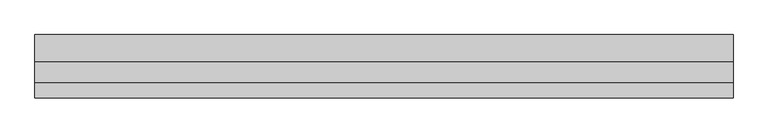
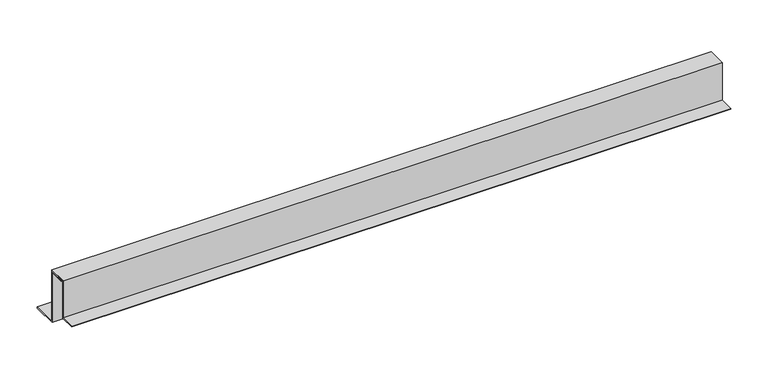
"""IFC4 building model written with IfcOpenShell, lengths in millimetres: proxy geometry, АК7_1 бок Обрамление оконного_дверного проема : АК7_1 бок Обрамление оконного_дверного проема."""

from ifc_helpers import new_model, si_unit, frame, origin, place, context, project, spatial, polyline, outline, extrude, source, transform, mapped, element, save


def generic_models_f476a873(model_context):
    return source(origin(), model_context, "Body", "SweptSolid", [
        extrude(outline(polyline([(12.5, 25.0), (42.5, 25.0), (42.5, 22.0), (27.5, 22.0), (27.5, 23.0), (41.5, 23.0), (41.5, 24.0), (13.5, 24.0), (13.5, -36.9999552), (-10.5, -36.9999552), (-10.5, -35.9999552), (12.5, -35.9999552), (12.5, 25.0)])), frame((0.0, 0.0, 0.0), z_axis=(1.0, 0.0, 0.0), x_axis=(0.0, 1.0, 0.0)), (0.0, 0.0, 1.0), 1024.9741576),
        extrude(outline(polyline([(42.5, -60.0), (82.5, -60.0), (82.5, -63.0), (62.5, -63.0), (62.5, -62.0), (81.5, -62.0), (81.5, -61.0), (41.5, -61.0), (41.5, 21.0), (17.5, 21.0), (17.5, 22.0), (42.5, 22.0), (42.5, -60.0)])), frame((0.0, 0.0, 0.0), z_axis=(1.0, 0.0, 0.0), x_axis=(0.0, 1.0, 0.0)), (0.0, 0.0, 1.0), 1024.9741576),
    ])


if __name__ == "__main__":
    model = new_model("IFC4")
    model_context = context("Model", 3, world=origin())
    ifc_project = project(units=[si_unit("LENGTHUNIT", "METRE", prefix="MILLI")], contexts=[model_context])
    site = spatial("IfcSite", under=ifc_project)
    building = spatial("IfcBuilding", under=site)
    placement = place(None, origin())
    generic_models_shape = generic_models_f476a873(model_context)
    element("IfcBuildingElementProxy", 1, Name="АК7_1 бок Обрамление оконного_дверного проема : АК7_1 бок Обрамление оконного_дверного проема", ObjectType="АК7_1 бок Обрамление оконного_дверного проема : АК7_1 бок Обрамление оконного_дверного проема", at=placement, inside=building, context=model_context, shape_type="MappedRepresentation", body=[
        mapped(generic_models_shape, transform((0.0, 0.0, 0.0), x_axis=(1.0, 0.0, 0.0), y_axis=(0.0, 1.0, 0.0), z_axis=(0.0, 0.0, 1.0))),
    ])
    save(model, "model.ifc")
